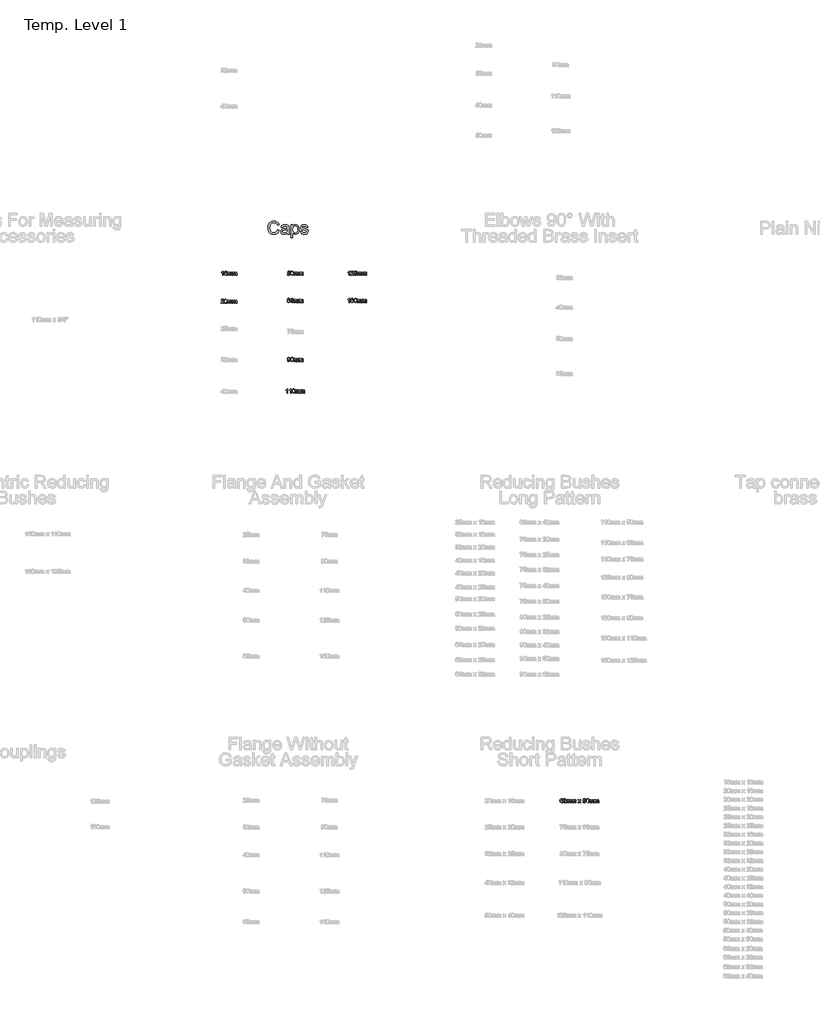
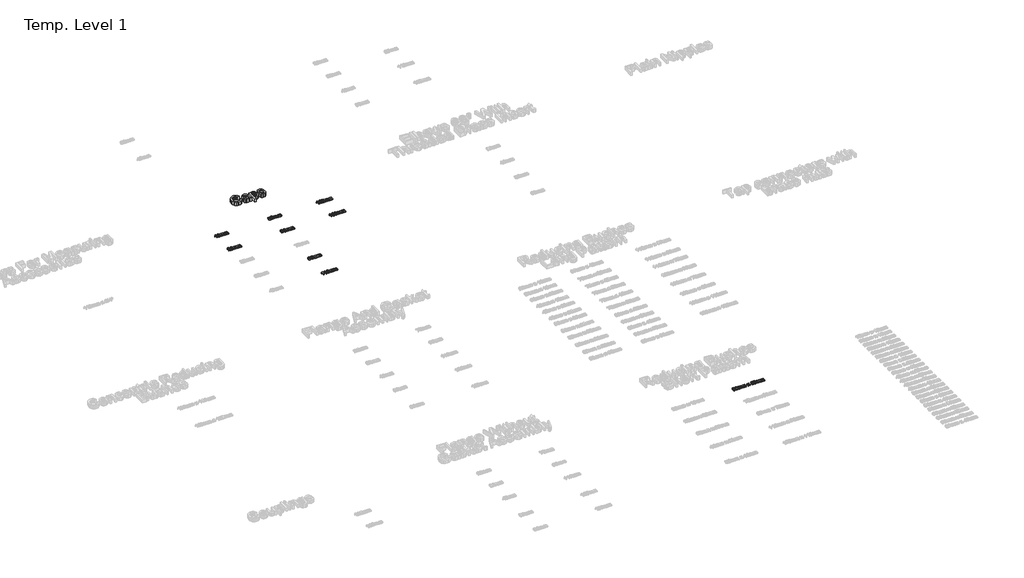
# One storey, part 40 of 62: 10 proxies.
"""IFC4 building model written with IfcOpenShell, lengths in millimetres."""

from ifc_helpers import new_model, si_unit, origin, origin_with_axes, place, context, project, spatial, polyline, outline, extrude, element, save

model = new_model("IFC4")

# Units and contexts
model_context = context("Model", 3, world=origin())
ifc_project = project(units=[si_unit("LENGTHUNIT", "METRE", prefix="MILLI")], contexts=[model_context])

# Site, building, storey
site = spatial("IfcSite", under=ifc_project)
building = spatial("IfcBuilding", under=site)
storey = spatial("IfcBuildingStorey", under=building, Name="Temp. Level 1", Elevation=0.0)

# Proxies
placement = place(None, origin())
element("IfcBuildingElementProxy", 1, Name="150mm Arial", ObjectType="150mm Arial", at=placement, inside=storey, context=model_context, shape_type="SweptSolid", body=[
    extrude(outline(polyline([(21300.3484058, -1017.698517), (21318.8099442, -1022.4581324), (21310.2913144, -1043.9710531), (21296.922925, -1059.6876997), (21279.3628288, -1069.3015819), (21258.2690788, -1072.5062093), (21236.8553168, -1070.0813295), (21219.8496077, -1062.8066901), (21206.8147519, -1050.9346949), (21197.31355, -1034.7177478), (21191.5127688, -1015.652243), (21189.579175, -995.2345747), (21191.7651726, -973.699118), (21198.3231654, -955.1023632), (21208.9106053, -940.034755), (21223.1849442, -929.0867382), (21240.1140308, -922.4205723), (21258.6657135, -920.198517), (21278.9076005, -923.074118), (21295.6428769, -931.7009209), (21308.3487063, -945.5470747), (21316.5022519, -964.0807286), (21298.0407135, -968.479767), (21291.6404731, -955.0167262), (21282.8964827, -945.7814497), (21271.7005692, -940.440404), (21257.9445596, -938.6600555), (21242.0881894, -940.6342141), (21229.0623481, -946.5566901), (21219.1780332, -955.8054882), (21212.7462423, -967.7586132), (21208.0407135, -995.198517), (21213.6116269, -1027.0014016), (21220.7330212, -1038.877904), (21230.9553769, -1047.3199112), (21243.2104851, -1052.363481), (21256.4301365, -1054.0446709), (21271.8402928, -1051.7550074), (21284.6813385, -1044.886017), (21294.3763505, -1033.5098151), (21300.3484058, -1017.698517)])), origin_with_axes(), (0.0, 0.0, 1.0), 50.0),
    extrude(outline(polyline([(21411.1176365, -1056.3523632), (21393.2149923, -1068.8643824), (21373.4373481, -1072.5062093), (21358.009163, -1070.3157045), (21346.6284538, -1063.7441901), (21339.6107255, -1053.7652237), (21337.2714827, -1041.3523632), (21340.8051365, -1026.7489978), (21350.0899923, -1016.1480362), (21363.016675, -1010.0903439), (21378.9902327, -1007.3139016), (21411.0094635, -1000.9677478), (21411.1176365, -996.8571709), (21409.8466029, -988.6179882), (21406.0335019, -983.2273632), (21397.5058577, -979.2249593), (21385.6248481, -977.8908247), (21366.9469635, -981.4425074), (21358.0407135, -994.0446709), (21339.579175, -991.7369786), (21347.5659538, -973.7081324), (21363.6476846, -963.1432286), (21388.0046558, -959.4292862), (21410.3784538, -962.7105362), (21423.016675, -970.9497189), (21428.6777327, -983.479767), (21429.579175, -999.6336132), (21429.579175, -1022.6023632), (21430.516675, -1054.6756805), (21434.1945596, -1070.198517), (21415.7330212, -1070.198517), (21411.1176365, -1056.3523632)]), holes=[polyline([(21411.1176365, -1019.4292862), (21381.3339827, -1025.0903439), (21365.4505692, -1028.0831324), (21358.2570596, -1032.9509209), (21355.7330212, -1040.0542862), (21361.2318192, -1050.042267), (21377.3676365, -1054.0446709), (21396.0455212, -1049.6276036), (21408.0887904, -1038.9364978), (21411.0094635, -1024.6576516), (21411.1176365, -1019.4292862)])]), origin_with_axes(), (0.0, 0.0, 1.0), 50.0),
    extrude(outline(polyline([(21454.9637904, -1111.7369786), (21454.9637904, -961.7369786), (21473.4253288, -961.7369786), (21473.4253288, -979.8379401), (21486.1897519, -964.5314497), (21503.4253288, -959.4292862), (21515.9103048, -961.214142), (21526.8267712, -966.5687093), (21535.7149923, -975.1684689), (21542.1152327, -986.6889016), (21547.2714827, -1015.1384209), (21545.8156534, -1030.9271829), (21541.4481654, -1045.0482766), (21534.3087423, -1056.7850555), (21524.5371077, -1065.4208728), (21513.1563986, -1070.7348752), (21501.1897519, -1072.5062093), (21485.12605, -1067.7646228), (21473.4253288, -1055.7754401), (21473.4253288, -1111.7369786), (21454.9637904, -1111.7369786)]), holes=[polyline([(21473.4253288, -1016.8331324), (21475.4220236, -1033.3836132), (21481.4121077, -1044.9581324), (21490.2507495, -1051.7730362), (21500.7931173, -1054.0446709), (21511.5067591, -1051.6919064), (21520.5707615, -1044.6336132), (21526.7501486, -1032.6354161), (21528.8099442, -1015.4629401), (21526.7997279, -999.0026036), (21520.7690788, -987.2658247), (21511.9439587, -980.2345747), (21501.5503288, -977.8908247), (21491.1161341, -980.3833127), (21481.9529731, -987.8607766), (21475.5572399, -1000.0888415), (21473.4253288, -1016.8331324)])]), origin_with_axes(), (0.0, 0.0, 1.0), 50.0),
    extrude(outline(polyline([(21561.1176365, -1037.8908247), (21579.579175, -1035.5831324), (21582.4908337, -1043.479767), (21588.1248481, -1049.2850555), (21607.704175, -1054.0446709), (21626.5262904, -1049.6816901), (21632.6560981, -1039.4413055), (21626.4902327, -1031.1480362), (21607.4878288, -1025.8836132), (21579.6873481, -1016.8511612), (21567.5539346, -1006.3042862), (21563.4253288, -991.4124593), (21566.7426365, -977.6564497), (21575.7931173, -967.1456324), (21587.5298962, -961.682892), (21603.4133096, -959.4292862), (21625.8772519, -963.0530843), (21640.1560981, -972.8607766), (21646.5022519, -989.4292862), (21628.0407135, -991.7369786), (21621.0996077, -981.5506805), (21604.8556173, -977.8908247), (21587.1873481, -981.3884209), (21581.8868673, -989.5374593), (21584.0863865, -994.9100555), (21590.9734058, -998.9845747), (21606.8748481, -1002.9148632), (21633.9722038, -1011.604767), (21646.5563385, -1021.448517), (21651.1176365, -1037.4941901), (21645.7630692, -1055.1624593), (21630.3123481, -1067.9809689), (21607.4517712, -1072.5062093), (21588.8369875, -1070.3247189), (21575.2522519, -1063.7802478), (21566.1837423, -1052.9449112), (21561.1176365, -1037.8908247)])), origin_with_axes(), (0.0, 0.0, 1.0), 50.0),
])
element("IfcBuildingElementProxy", 2, Name="50mm Arial", ObjectType="50mm Arial", at=placement, inside=storey, context=model_context, shape_type="SweptSolid", body=[
    extrude(outline(polyline([(20674.3130417, -1541.5627719), (20668.1591956, -1541.5627719), (20668.1591956, -1503.1973873), (20662.3298686, -1507.3500315), (20655.8515033, -1510.4570027), (20655.8515033, -1504.639695), (20664.8719359, -1498.8824835), (20670.3466956, -1492.3320027), (20674.3130417, -1492.3320027), (20674.3130417, -1541.5627719)])), origin_with_axes(), (0.0, 0.0, 1.0), 15.0),
    extrude(outline(polyline([(20720.4668879, -1505.4089258), (20714.3130417, -1506.1781565), (20711.9813109, -1501.045945), (20705.8154456, -1498.4858488), (20700.2625609, -1499.9762335), (20696.0618398, -1505.5711854), (20694.3130417, -1516.5387335), (20699.7397244, -1511.6288777), (20706.464484, -1510.0243104), (20716.9212148, -1514.4113296), (20721.2361186, -1525.7454642), (20719.2048686, -1534.2370508), (20713.6159263, -1540.2466661), (20705.5510225, -1542.3320027), (20693.0089552, -1536.8031565), (20689.3716355, -1529.483445), (20688.1591956, -1518.5820027), (20689.5053494, -1506.3253921), (20693.5438109, -1497.9449835), (20699.0576331, -1493.7352479), (20706.2000609, -1492.3320027), (20715.9236186, -1495.8055604), (20720.4668879, -1505.4089258)]), holes=[polyline([(20694.3130417, -1525.6493104), (20695.7373206, -1530.9798392), (20699.5233783, -1534.8500315), (20705.0702533, -1536.1781565), (20712.323859, -1533.4257527), (20715.0822725, -1525.9497911), (20712.3599167, -1518.7923392), (20704.8178494, -1516.1781565), (20697.3719359, -1518.7923392), (20694.3130417, -1525.6493104)])]), origin_with_axes(), (0.0, 0.0, 1.0), 15.0),
    extrude(outline(polyline([(20728.1591956, -1541.5627719), (20728.1591956, -1505.4089258), (20734.3130417, -1505.4089258), (20734.3130417, -1511.358445), (20738.5438109, -1506.4846469), (20744.5654456, -1504.639695), (20750.7313109, -1506.5207046), (20754.120734, -1511.7911373), (20758.9224167, -1506.4275556), (20764.9861186, -1504.639695), (20773.0329936, -1507.6144546), (20775.8515033, -1516.7791181), (20775.8515033, -1541.5627719), (20769.6976571, -1541.5627719), (20769.6976571, -1519.4233488), (20769.1267436, -1514.2851277), (20767.0594359, -1511.7550796), (20763.5438109, -1510.7935411), (20757.4921283, -1513.2574835), (20755.0822725, -1521.1541181), (20755.0822725, -1541.5627719), (20748.9284263, -1541.5627719), (20748.9284263, -1518.7382527), (20747.5041475, -1512.7767142), (20742.8346763, -1510.7935411), (20738.2793879, -1512.1156565), (20735.2505417, -1515.9858488), (20734.3130417, -1523.3295988), (20734.3130417, -1541.5627719), (20728.1591956, -1541.5627719)])), origin_with_axes(), (0.0, 0.0, 1.0), 15.0),
    extrude(outline(polyline([(20785.0822725, -1541.5627719), (20785.0822725, -1505.4089258), (20791.2361186, -1505.4089258), (20791.2361186, -1511.358445), (20795.4668879, -1506.4846469), (20801.4885225, -1504.639695), (20807.6543879, -1506.5207046), (20811.0438109, -1511.7911373), (20815.8454936, -1506.4275556), (20821.9091956, -1504.639695), (20829.9560706, -1507.6144546), (20832.7745802, -1516.7791181), (20832.7745802, -1541.5627719), (20826.620734, -1541.5627719), (20826.620734, -1519.4233488), (20826.0498206, -1514.2851277), (20823.9825129, -1511.7550796), (20820.4668879, -1510.7935411), (20814.4152052, -1513.2574835), (20812.0053494, -1521.1541181), (20812.0053494, -1541.5627719), (20805.8515033, -1541.5627719), (20805.8515033, -1518.7382527), (20804.4272244, -1512.7767142), (20799.7577533, -1510.7935411), (20795.2024648, -1512.1156565), (20792.1736186, -1515.9858488), (20791.2361186, -1523.3295988), (20791.2361186, -1541.5627719), (20785.0822725, -1541.5627719)])), origin_with_axes(), (0.0, 0.0, 1.0), 15.0),
])
element("IfcBuildingElementProxy", 3, Name="50mm Arial", ObjectType="50mm Arial", at=placement, inside=storey, context=model_context, shape_type="SweptSolid", body=[
    extrude(outline(polyline([(20682.7745802, -1856.5446709), (20682.7745802, -1862.698517), (20650.4668879, -1862.698517), (20651.1279456, -1858.4557286), (20654.8659263, -1851.9232766), (20662.5702533, -1844.7898632), (20673.1952533, -1834.5374593), (20675.8515033, -1827.5663055), (20673.3454936, -1821.9232766), (20666.8010225, -1819.6215939), (20659.980109, -1821.8691901), (20657.3899648, -1828.0831324), (20651.2361186, -1827.3139016), (20655.9536667, -1817.0134209), (20666.933234, -1813.4677478), (20677.948859, -1817.4100555), (20682.0053494, -1827.1937093), (20680.9115994, -1833.0290459), (20677.2757821, -1839.0626997), (20668.4596763, -1847.4941901), (20661.3803494, -1853.4136612), (20658.6039071, -1856.5446709), (20682.7745802, -1856.5446709)])), origin_with_axes(), (0.0, 0.0, 1.0), 15.0),
    extrude(outline(polyline([(20688.9284263, -1838.479767), (20690.7373206, -1824.3151036), (20696.1099167, -1816.1480362), (20705.0822725, -1813.4677478), (20712.2697725, -1815.0542862), (20717.2337148, -1819.6276036), (20720.1183302, -1826.9112574), (20721.2361186, -1838.479767), (20719.4452533, -1852.5843343), (20714.0906859, -1860.7694305), (20705.0822725, -1863.4677478), (20693.8322725, -1858.7802478), (20690.1543879, -1850.4539257), (20688.9284263, -1838.479767)]), holes=[polyline([(20695.0822725, -1838.4677478), (20697.9668879, -1853.7501997), (20705.0822725, -1857.3139016), (20712.1976571, -1853.7381805), (20715.0822725, -1838.4677478), (20712.2938109, -1823.3595747), (20705.0101571, -1819.6215939), (20698.0630417, -1822.9148632), (20695.0822725, -1838.4677478)])]), origin_with_axes(), (0.0, 0.0, 1.0), 15.0),
    extrude(outline(polyline([(20728.1591956, -1862.698517), (20728.1591956, -1826.5446709), (20734.3130417, -1826.5446709), (20734.3130417, -1832.4941901), (20738.5438109, -1827.620392), (20744.5654456, -1825.7754401), (20750.7313109, -1827.6564497), (20754.120734, -1832.9268824), (20758.9224167, -1827.5633007), (20764.9861186, -1825.7754401), (20773.0329936, -1828.7501997), (20775.8515033, -1837.9148632), (20775.8515033, -1862.698517), (20769.6976571, -1862.698517), (20769.6976571, -1840.5590939), (20769.1267436, -1835.4208728), (20767.0594359, -1832.8908247), (20763.5438109, -1831.9292862), (20757.4921283, -1834.3932286), (20755.0822725, -1842.2898632), (20755.0822725, -1862.698517), (20748.9284263, -1862.698517), (20748.9284263, -1839.8739978), (20747.5041475, -1833.9124593), (20742.8346763, -1831.9292862), (20738.2793879, -1833.2514016), (20735.2505417, -1837.1215939), (20734.3130417, -1844.4653439), (20734.3130417, -1862.698517), (20728.1591956, -1862.698517)])), origin_with_axes(), (0.0, 0.0, 1.0), 15.0),
    extrude(outline(polyline([(20785.0822725, -1862.698517), (20785.0822725, -1826.5446709), (20791.2361186, -1826.5446709), (20791.2361186, -1832.4941901), (20795.4668879, -1827.620392), (20801.4885225, -1825.7754401), (20807.6543879, -1827.6564497), (20811.0438109, -1832.9268824), (20815.8454936, -1827.5633007), (20821.9091956, -1825.7754401), (20829.9560706, -1828.7501997), (20832.7745802, -1837.9148632), (20832.7745802, -1862.698517), (20826.620734, -1862.698517), (20826.620734, -1840.5590939), (20826.0498206, -1835.4208728), (20823.9825129, -1832.8908247), (20820.4668879, -1831.9292862), (20814.4152052, -1834.3932286), (20812.0053494, -1842.2898632), (20812.0053494, -1862.698517), (20805.8515033, -1862.698517), (20805.8515033, -1839.8739978), (20804.4272244, -1833.9124593), (20799.7577533, -1831.9292862), (20795.2024648, -1833.2514016), (20792.1736186, -1837.1215939), (20791.2361186, -1844.4653439), (20791.2361186, -1862.698517), (20785.0822725, -1862.698517)])), origin_with_axes(), (0.0, 0.0, 1.0), 15.0),
])
element("IfcBuildingElementProxy", 4, Name="50mm Arial", ObjectType="50mm Arial", at=placement, inside=storey, context=model_context, shape_type="SweptSolid", body=[
    extrude(outline(polyline([(21411.2361186, -1528.4858488), (21417.3899648, -1527.7166181), (21420.4909263, -1534.0567623), (21426.9212148, -1536.1781565), (21434.6375609, -1533.2274354), (21437.3899648, -1525.3969065), (21434.8118398, -1518.0892142), (21427.0173686, -1515.4089258), (21421.6147244, -1516.4786373), (21418.1591956, -1519.2550796), (21412.0053494, -1518.4858488), (21417.3899648, -1493.1012335), (21441.2361186, -1493.1012335), (21441.2361186, -1499.2550796), (21422.3659263, -1499.2550796), (21419.7337148, -1512.8127719), (21428.7361186, -1509.2550796), (21439.2589552, -1513.6661373), (21443.5438109, -1525.0122911), (21439.6856379, -1536.4305604), (21434.1447725, -1540.8566421), (21426.8971763, -1542.3320027), (21416.0378013, -1538.5399354), (21411.2361186, -1528.4858488)])), origin_with_axes(), (0.0, 0.0, 1.0), 15.0),
    extrude(outline(polyline([(21448.9284263, -1517.3440219), (21450.7373206, -1503.1793585), (21456.1099167, -1495.0122911), (21465.0822725, -1492.3320027), (21472.2697725, -1493.9185411), (21477.2337148, -1498.4918585), (21480.1183302, -1505.7755123), (21481.2361186, -1517.3440219), (21479.4452533, -1531.4485892), (21474.0906859, -1539.6336854), (21465.0822725, -1542.3320027), (21453.8322725, -1537.6445027), (21450.1543879, -1529.3181806), (21448.9284263, -1517.3440219)]), holes=[polyline([(21455.0822725, -1517.3320027), (21457.9668879, -1532.6144546), (21465.0822725, -1536.1781565), (21472.1976571, -1532.6024354), (21475.0822725, -1517.3320027), (21472.2938109, -1502.2238296), (21465.0101571, -1498.4858488), (21458.0630417, -1501.7791181), (21455.0822725, -1517.3320027)])]), origin_with_axes(), (0.0, 0.0, 1.0), 15.0),
    extrude(outline(polyline([(21488.1591956, -1541.5627719), (21488.1591956, -1505.4089258), (21494.3130417, -1505.4089258), (21494.3130417, -1511.358445), (21498.5438109, -1506.4846469), (21504.5654456, -1504.639695), (21510.7313109, -1506.5207046), (21514.120734, -1511.7911373), (21518.9224167, -1506.4275556), (21524.9861186, -1504.639695), (21533.0329936, -1507.6144546), (21535.8515033, -1516.7791181), (21535.8515033, -1541.5627719), (21529.6976571, -1541.5627719), (21529.6976571, -1519.4233488), (21529.1267436, -1514.2851277), (21527.0594359, -1511.7550796), (21523.5438109, -1510.7935411), (21517.4921283, -1513.2574835), (21515.0822725, -1521.1541181), (21515.0822725, -1541.5627719), (21508.9284263, -1541.5627719), (21508.9284263, -1518.7382527), (21507.5041475, -1512.7767142), (21502.8346763, -1510.7935411), (21498.2793879, -1512.1156565), (21495.2505417, -1515.9858488), (21494.3130417, -1523.3295988), (21494.3130417, -1541.5627719), (21488.1591956, -1541.5627719)])), origin_with_axes(), (0.0, 0.0, 1.0), 15.0),
    extrude(outline(polyline([(21545.0822725, -1541.5627719), (21545.0822725, -1505.4089258), (21551.2361186, -1505.4089258), (21551.2361186, -1511.358445), (21555.4668879, -1506.4846469), (21561.4885225, -1504.639695), (21567.6543879, -1506.5207046), (21571.0438109, -1511.7911373), (21575.8454936, -1506.4275556), (21581.9091956, -1504.639695), (21589.9560706, -1507.6144546), (21592.7745802, -1516.7791181), (21592.7745802, -1541.5627719), (21586.620734, -1541.5627719), (21586.620734, -1519.4233488), (21586.0498206, -1514.2851277), (21583.9825129, -1511.7550796), (21580.4668879, -1510.7935411), (21574.4152052, -1513.2574835), (21572.0053494, -1521.1541181), (21572.0053494, -1541.5627719), (21565.8515033, -1541.5627719), (21565.8515033, -1518.7382527), (21564.4272244, -1512.7767142), (21559.7577533, -1510.7935411), (21555.2024648, -1512.1156565), (21552.1736186, -1515.9858488), (21551.2361186, -1523.3295988), (21551.2361186, -1541.5627719), (21545.0822725, -1541.5627719)])), origin_with_axes(), (0.0, 0.0, 1.0), 15.0),
])
element("IfcBuildingElementProxy", 5, Name="50mm Arial", ObjectType="50mm Arial", at=placement, inside=storey, context=model_context, shape_type="SweptSolid", body=[
    extrude(outline(polyline([(21442.7745802, -1817.9089258), (21436.620734, -1818.6781565), (21434.2890033, -1813.545945), (21428.1231379, -1810.9858488), (21422.5702533, -1812.4762335), (21418.3695321, -1818.0711854), (21416.620734, -1829.0387335), (21422.0474167, -1824.1288777), (21428.7721763, -1822.5243104), (21439.2289071, -1826.9113296), (21443.5438109, -1838.2454642), (21441.5125609, -1846.7370508), (21435.9236186, -1852.7466661), (21427.8587148, -1854.8320027), (21415.3166475, -1849.3031565), (21411.6793278, -1841.983445), (21410.4668879, -1831.0820027), (21411.8130417, -1818.8253921), (21415.8515033, -1810.4449835), (21421.3653254, -1806.2352479), (21428.5077533, -1804.8320027), (21438.2313109, -1808.3055604), (21442.7745802, -1817.9089258)]), holes=[polyline([(21416.620734, -1838.1493104), (21418.0450129, -1843.4798392), (21421.8310706, -1847.3500315), (21427.3779456, -1848.6781565), (21434.6315513, -1845.9257527), (21437.3899648, -1838.4497911), (21434.667609, -1831.2923392), (21427.1255417, -1828.6781565), (21419.6796283, -1831.2923392), (21416.620734, -1838.1493104)])]), origin_with_axes(), (0.0, 0.0, 1.0), 15.0),
    extrude(outline(polyline([(21448.9284263, -1840.9858488), (21455.0822725, -1840.2166181), (21458.4777052, -1846.6949835), (21464.8298686, -1848.6781565), (21472.3058302, -1845.9497911), (21475.0822725, -1839.1949835), (21472.3298686, -1832.8308008), (21465.3346763, -1830.3127719), (21461.0197725, -1830.9858488), (21461.7048686, -1824.8320027), (21469.6736186, -1823.1372911), (21472.7745802, -1817.7045988), (21470.526984, -1812.8908969), (21464.7337148, -1810.9858488), (21458.8683302, -1812.9089258), (21455.8515033, -1818.6781565), (21449.6976571, -1817.9089258), (21454.7337148, -1808.2574835), (21464.5173686, -1804.8320027), (21471.9392436, -1806.5207046), (21477.1315513, -1811.1360892), (21478.9284263, -1817.3440219), (21477.2216956, -1823.0170988), (21472.1736186, -1827.0916181), (21478.8803494, -1831.2983488), (21481.2361186, -1839.3031565), (21476.5245802, -1850.3127719), (21464.6135225, -1854.8320027), (21453.8202533, -1850.9738296), (21448.9284263, -1840.9858488)])), origin_with_axes(), (0.0, 0.0, 1.0), 15.0),
    extrude(outline(polyline([(21488.1591956, -1854.0627719), (21488.1591956, -1817.9089258), (21494.3130417, -1817.9089258), (21494.3130417, -1823.858445), (21498.5438109, -1818.9846469), (21504.5654456, -1817.139695), (21510.7313109, -1819.0207046), (21514.120734, -1824.2911373), (21518.9224167, -1818.9275556), (21524.9861186, -1817.139695), (21533.0329936, -1820.1144546), (21535.8515033, -1829.2791181), (21535.8515033, -1854.0627719), (21529.6976571, -1854.0627719), (21529.6976571, -1831.9233488), (21529.1267436, -1826.7851277), (21527.0594359, -1824.2550796), (21523.5438109, -1823.2935411), (21517.4921283, -1825.7574835), (21515.0822725, -1833.6541181), (21515.0822725, -1854.0627719), (21508.9284263, -1854.0627719), (21508.9284263, -1831.2382527), (21507.5041475, -1825.2767142), (21502.8346763, -1823.2935411), (21498.2793879, -1824.6156565), (21495.2505417, -1828.4858488), (21494.3130417, -1835.8295988), (21494.3130417, -1854.0627719), (21488.1591956, -1854.0627719)])), origin_with_axes(), (0.0, 0.0, 1.0), 15.0),
    extrude(outline(polyline([(21545.0822725, -1854.0627719), (21545.0822725, -1817.9089258), (21551.2361186, -1817.9089258), (21551.2361186, -1823.858445), (21555.4668879, -1818.9846469), (21561.4885225, -1817.139695), (21567.6543879, -1819.0207046), (21571.0438109, -1824.2911373), (21575.8454936, -1818.9275556), (21581.9091956, -1817.139695), (21589.9560706, -1820.1144546), (21592.7745802, -1829.2791181), (21592.7745802, -1854.0627719), (21586.620734, -1854.0627719), (21586.620734, -1831.9233488), (21586.0498206, -1826.7851277), (21583.9825129, -1824.2550796), (21580.4668879, -1823.2935411), (21574.4152052, -1825.7574835), (21572.0053494, -1833.6541181), (21572.0053494, -1854.0627719), (21565.8515033, -1854.0627719), (21565.8515033, -1831.2382527), (21564.4272244, -1825.2767142), (21559.7577533, -1823.2935411), (21555.2024648, -1824.6156565), (21552.1736186, -1828.4858488), (21551.2361186, -1835.8295988), (21551.2361186, -1854.0627719), (21545.0822725, -1854.0627719)])), origin_with_axes(), (0.0, 0.0, 1.0), 15.0),
])
element("IfcBuildingElementProxy", 6, Name="50mm Arial", ObjectType="50mm Arial", at=placement, inside=storey, context=model_context, shape_type="SweptSolid", body=[
    extrude(outline(polyline([(21412.0053494, -2517.8908247), (21418.1591956, -2517.1215939), (21420.9236186, -2522.9929882), (21426.1640033, -2524.8139016), (21431.1459744, -2523.6420266), (21434.5233783, -2520.511017), (21436.5365994, -2515.1624593), (21437.4260225, -2508.0230362), (21432.4680898, -2511.4845747), (21425.7192917, -2513.2754401), (21415.4368398, -2508.9004401), (21411.2361186, -2497.3739978), (21415.6411667, -2485.4749593), (21426.6808302, -2480.9677478), (21435.448859, -2483.5398632), (21441.4825129, -2490.8715939), (21443.5438109, -2504.6456324), (21441.4885225, -2519.5915459), (21435.3767436, -2528.0590939), (21425.8755417, -2530.9677478), (21416.4164071, -2527.5362574), (21412.0053494, -2517.8908247)]), holes=[polyline([(21437.3899648, -2497.229767), (21434.7337148, -2489.8499593), (21427.6784263, -2487.1215939), (21420.2745802, -2490.0602959), (21417.3899648, -2497.6744786), (21420.1183302, -2504.495392), (21427.5101571, -2507.1215939), (21434.6075129, -2504.495392), (21437.3899648, -2497.229767)])]), origin_with_axes(), (0.0, 0.0, 1.0), 15.0),
    extrude(outline(polyline([(21448.9284263, -2505.979767), (21450.7373206, -2491.8151036), (21456.1099167, -2483.6480362), (21465.0822725, -2480.9677478), (21472.2697725, -2482.5542862), (21477.2337148, -2487.1276036), (21480.1183302, -2494.4112574), (21481.2361186, -2505.979767), (21479.4452533, -2520.0843343), (21474.0906859, -2528.2694305), (21465.0822725, -2530.9677478), (21453.8322725, -2526.2802478), (21450.1543879, -2517.9539257), (21448.9284263, -2505.979767)]), holes=[polyline([(21455.0822725, -2505.9677478), (21457.9668879, -2521.2501997), (21465.0822725, -2524.8139016), (21472.1976571, -2521.2381805), (21475.0822725, -2505.9677478), (21472.2938109, -2490.8595747), (21465.0101571, -2487.1215939), (21458.0630417, -2490.4148632), (21455.0822725, -2505.9677478)])]), origin_with_axes(), (0.0, 0.0, 1.0), 15.0),
    extrude(outline(polyline([(21488.1591956, -2530.198517), (21488.1591956, -2494.0446709), (21494.3130417, -2494.0446709), (21494.3130417, -2499.9941901), (21498.5438109, -2495.120392), (21504.5654456, -2493.2754401), (21510.7313109, -2495.1564497), (21514.120734, -2500.4268824), (21518.9224167, -2495.0633007), (21524.9861186, -2493.2754401), (21533.0329936, -2496.2501997), (21535.8515033, -2505.4148632), (21535.8515033, -2530.198517), (21529.6976571, -2530.198517), (21529.6976571, -2508.0590939), (21529.1267436, -2502.9208728), (21527.0594359, -2500.3908247), (21523.5438109, -2499.4292862), (21517.4921283, -2501.8932286), (21515.0822725, -2509.7898632), (21515.0822725, -2530.198517), (21508.9284263, -2530.198517), (21508.9284263, -2507.3739978), (21507.5041475, -2501.4124593), (21502.8346763, -2499.4292862), (21498.2793879, -2500.7514016), (21495.2505417, -2504.6215939), (21494.3130417, -2511.9653439), (21494.3130417, -2530.198517), (21488.1591956, -2530.198517)])), origin_with_axes(), (0.0, 0.0, 1.0), 15.0),
    extrude(outline(polyline([(21545.0822725, -2530.198517), (21545.0822725, -2494.0446709), (21551.2361186, -2494.0446709), (21551.2361186, -2499.9941901), (21555.4668879, -2495.120392), (21561.4885225, -2493.2754401), (21567.6543879, -2495.1564497), (21571.0438109, -2500.4268824), (21575.8454936, -2495.0633007), (21581.9091956, -2493.2754401), (21589.9560706, -2496.2501997), (21592.7745802, -2505.4148632), (21592.7745802, -2530.198517), (21586.620734, -2530.198517), (21586.620734, -2508.0590939), (21586.0498206, -2502.9208728), (21583.9825129, -2500.3908247), (21580.4668879, -2499.4292862), (21574.4152052, -2501.8932286), (21572.0053494, -2509.7898632), (21572.0053494, -2530.198517), (21565.8515033, -2530.198517), (21565.8515033, -2507.3739978), (21564.4272244, -2501.4124593), (21559.7577533, -2499.4292862), (21555.2024648, -2500.7514016), (21552.1736186, -2504.6215939), (21551.2361186, -2511.9653439), (21551.2361186, -2530.198517), (21545.0822725, -2530.198517)])), origin_with_axes(), (0.0, 0.0, 1.0), 15.0),
])
element("IfcBuildingElementProxy", 7, Name="50mm Arial", ObjectType="50mm Arial", at=placement, inside=storey, context=model_context, shape_type="SweptSolid", body=[
    extrude(outline(polyline([(21415.4668879, -2890.198517), (21409.3130417, -2890.198517), (21409.3130417, -2851.8331324), (21403.4837148, -2855.9857766), (21397.0053494, -2859.0927478), (21397.0053494, -2853.2754401), (21406.0257821, -2847.5182286), (21411.5005417, -2840.9677478), (21415.4668879, -2840.9677478), (21415.4668879, -2890.198517)])), origin_with_axes(), (0.0, 0.0, 1.0), 15.0),
    extrude(outline(polyline([(21453.1591956, -2890.198517), (21447.0053494, -2890.198517), (21447.0053494, -2851.8331324), (21441.1760225, -2855.9857766), (21434.6976571, -2859.0927478), (21434.6976571, -2853.2754401), (21443.7180898, -2847.5182286), (21449.1928494, -2840.9677478), (21453.1591956, -2840.9677478), (21453.1591956, -2890.198517)])), origin_with_axes(), (0.0, 0.0, 1.0), 15.0),
    extrude(outline(polyline([(21467.7745802, -2865.979767), (21469.5834744, -2851.8151036), (21474.9560706, -2843.6480362), (21483.9284263, -2840.9677478), (21491.1159263, -2842.5542862), (21496.0798686, -2847.1276036), (21498.964484, -2854.4112574), (21500.0822725, -2865.979767), (21498.2914071, -2880.0843343), (21492.9368398, -2888.2694305), (21483.9284263, -2890.9677478), (21472.6784263, -2886.2802478), (21469.0005417, -2877.9539257), (21467.7745802, -2865.979767)]), holes=[polyline([(21473.9284263, -2865.9677478), (21476.8130417, -2881.2501997), (21483.9284263, -2884.8139016), (21491.0438109, -2881.2381805), (21493.9284263, -2865.9677478), (21491.1399648, -2850.8595747), (21483.8563109, -2847.1215939), (21476.9091956, -2850.4148632), (21473.9284263, -2865.9677478)])]), origin_with_axes(), (0.0, 0.0, 1.0), 15.0),
    extrude(outline(polyline([(21507.0053494, -2890.198517), (21507.0053494, -2854.0446709), (21513.1591956, -2854.0446709), (21513.1591956, -2859.9941901), (21517.3899648, -2855.120392), (21523.4115994, -2853.2754401), (21529.5774648, -2855.1564497), (21532.9668879, -2860.4268824), (21537.7685706, -2855.0633007), (21543.8322725, -2853.2754401), (21551.8791475, -2856.2501997), (21554.6976571, -2865.4148632), (21554.6976571, -2890.198517), (21548.5438109, -2890.198517), (21548.5438109, -2868.0590939), (21547.9728975, -2862.9208728), (21545.9055898, -2860.3908247), (21542.3899648, -2859.4292862), (21536.3382821, -2861.8932286), (21533.9284263, -2869.7898632), (21533.9284263, -2890.198517), (21527.7745802, -2890.198517), (21527.7745802, -2867.3739978), (21526.3503013, -2861.4124593), (21521.6808302, -2859.4292862), (21517.1255417, -2860.7514016), (21514.0966956, -2864.6215939), (21513.1591956, -2871.9653439), (21513.1591956, -2890.198517), (21507.0053494, -2890.198517)])), origin_with_axes(), (0.0, 0.0, 1.0), 15.0),
    extrude(outline(polyline([(21563.9284263, -2890.198517), (21563.9284263, -2854.0446709), (21570.0822725, -2854.0446709), (21570.0822725, -2859.9941901), (21574.3130417, -2855.120392), (21580.3346763, -2853.2754401), (21586.5005417, -2855.1564497), (21589.8899648, -2860.4268824), (21594.6916475, -2855.0633007), (21600.7553494, -2853.2754401), (21608.8022244, -2856.2501997), (21611.620734, -2865.4148632), (21611.620734, -2890.198517), (21605.4668879, -2890.198517), (21605.4668879, -2868.0590939), (21604.8959744, -2862.9208728), (21602.8286667, -2860.3908247), (21599.3130417, -2859.4292862), (21593.261359, -2861.8932286), (21590.8515033, -2869.7898632), (21590.8515033, -2890.198517), (21584.6976571, -2890.198517), (21584.6976571, -2867.3739978), (21583.2733783, -2861.4124593), (21578.6039071, -2859.4292862), (21574.0486186, -2860.7514016), (21571.0197725, -2864.6215939), (21570.0822725, -2871.9653439), (21570.0822725, -2890.198517), (21563.9284263, -2890.198517)])), origin_with_axes(), (0.0, 0.0, 1.0), 15.0),
])
element("IfcBuildingElementProxy", 8, Name="50mm Arial", ObjectType="50mm Arial", at=placement, inside=storey, context=model_context, shape_type="SweptSolid", body=[
    extrude(outline(polyline([(22124.4668879, -1541.5627719), (22118.3130417, -1541.5627719), (22118.3130417, -1503.1973873), (22112.4837148, -1507.3500315), (22106.0053494, -1510.4570027), (22106.0053494, -1504.639695), (22115.0257821, -1498.8824835), (22120.5005417, -1492.3320027), (22124.4668879, -1492.3320027), (22124.4668879, -1541.5627719)])), origin_with_axes(), (0.0, 0.0, 1.0), 15.0),
    extrude(outline(polyline([(22170.620734, -1535.4089258), (22170.620734, -1541.5627719), (22138.3130417, -1541.5627719), (22138.9740994, -1537.3199835), (22142.7120802, -1530.7875315), (22150.4164071, -1523.6541181), (22161.0414071, -1513.4017142), (22163.6976571, -1506.4305604), (22161.1916475, -1500.7875315), (22154.6471763, -1498.4858488), (22147.8262629, -1500.733445), (22145.2361186, -1506.9473873), (22139.0822725, -1506.1781565), (22143.7998206, -1495.8776758), (22154.7793879, -1492.3320027), (22165.7950129, -1496.2743104), (22169.8515033, -1506.0579642), (22168.7577533, -1511.8933008), (22165.1219359, -1517.9269546), (22156.3058302, -1526.358445), (22149.2265033, -1532.2779161), (22146.4500609, -1535.4089258), (22170.620734, -1535.4089258)])), origin_with_axes(), (0.0, 0.0, 1.0), 15.0),
    extrude(outline(polyline([(22176.7745802, -1528.4858488), (22182.9284263, -1527.7166181), (22186.0293879, -1534.0567623), (22192.4596763, -1536.1781565), (22200.1760225, -1533.2274354), (22202.9284263, -1525.3969065), (22200.3503013, -1518.0892142), (22192.5558302, -1515.4089258), (22187.1531859, -1516.4786373), (22183.6976571, -1519.2550796), (22177.5438109, -1518.4858488), (22182.9284263, -1493.1012335), (22206.7745802, -1493.1012335), (22206.7745802, -1499.2550796), (22187.9043879, -1499.2550796), (22185.2721763, -1512.8127719), (22194.2745802, -1509.2550796), (22204.7974167, -1513.6661373), (22209.0822725, -1525.0122911), (22205.2240994, -1536.4305604), (22199.683234, -1540.8566421), (22192.4356379, -1542.3320027), (22181.5762629, -1538.5399354), (22176.7745802, -1528.4858488)])), origin_with_axes(), (0.0, 0.0, 1.0), 15.0),
    extrude(outline(polyline([(22216.0053494, -1541.5627719), (22216.0053494, -1505.4089258), (22222.1591956, -1505.4089258), (22222.1591956, -1511.358445), (22226.3899648, -1506.4846469), (22232.4115994, -1504.639695), (22238.5774648, -1506.5207046), (22241.9668879, -1511.7911373), (22246.7685706, -1506.4275556), (22252.8322725, -1504.639695), (22260.8791475, -1507.6144546), (22263.6976571, -1516.7791181), (22263.6976571, -1541.5627719), (22257.5438109, -1541.5627719), (22257.5438109, -1519.4233488), (22256.9728975, -1514.2851277), (22254.9055898, -1511.7550796), (22251.3899648, -1510.7935411), (22245.3382821, -1513.2574835), (22242.9284263, -1521.1541181), (22242.9284263, -1541.5627719), (22236.7745802, -1541.5627719), (22236.7745802, -1518.7382527), (22235.3503013, -1512.7767142), (22230.6808302, -1510.7935411), (22226.1255417, -1512.1156565), (22223.0966956, -1515.9858488), (22222.1591956, -1523.3295988), (22222.1591956, -1541.5627719), (22216.0053494, -1541.5627719)])), origin_with_axes(), (0.0, 0.0, 1.0), 15.0),
    extrude(outline(polyline([(22272.9284263, -1541.5627719), (22272.9284263, -1505.4089258), (22279.0822725, -1505.4089258), (22279.0822725, -1511.358445), (22283.3130417, -1506.4846469), (22289.3346763, -1504.639695), (22295.5005417, -1506.5207046), (22298.8899648, -1511.7911373), (22303.6916475, -1506.4275556), (22309.7553494, -1504.639695), (22317.8022244, -1507.6144546), (22320.620734, -1516.7791181), (22320.620734, -1541.5627719), (22314.4668879, -1541.5627719), (22314.4668879, -1519.4233488), (22313.8959744, -1514.2851277), (22311.8286667, -1511.7550796), (22308.3130417, -1510.7935411), (22302.261359, -1513.2574835), (22299.8515033, -1521.1541181), (22299.8515033, -1541.5627719), (22293.6976571, -1541.5627719), (22293.6976571, -1518.7382527), (22292.2733783, -1512.7767142), (22287.6039071, -1510.7935411), (22283.0486186, -1512.1156565), (22280.0197725, -1515.9858488), (22279.0822725, -1523.3295988), (22279.0822725, -1541.5627719), (22272.9284263, -1541.5627719)])), origin_with_axes(), (0.0, 0.0, 1.0), 15.0),
])
element("IfcBuildingElementProxy", 9, Name="50mm Arial", ObjectType="50mm Arial", at=placement, inside=storey, context=model_context, shape_type="SweptSolid", body=[
    extrude(outline(polyline([(22124.4668879, -1854.0627719), (22118.3130417, -1854.0627719), (22118.3130417, -1815.6973873), (22112.4837148, -1819.8500315), (22106.0053494, -1822.9570027), (22106.0053494, -1817.139695), (22115.0257821, -1811.3824835), (22120.5005417, -1804.8320027), (22124.4668879, -1804.8320027), (22124.4668879, -1854.0627719)])), origin_with_axes(), (0.0, 0.0, 1.0), 15.0),
    extrude(outline(polyline([(22170.620734, -1817.9089258), (22164.4668879, -1818.6781565), (22162.1351571, -1813.545945), (22155.9692917, -1810.9858488), (22150.4164071, -1812.4762335), (22146.2156859, -1818.0711854), (22144.4668879, -1829.0387335), (22149.8935706, -1824.1288777), (22156.6183302, -1822.5243104), (22167.0750609, -1826.9113296), (22171.3899648, -1838.2454642), (22169.3587148, -1846.7370508), (22163.7697725, -1852.7466661), (22155.7048686, -1854.8320027), (22143.1628013, -1849.3031565), (22139.5254816, -1841.983445), (22138.3130417, -1831.0820027), (22139.6591956, -1818.8253921), (22143.6976571, -1810.4449835), (22149.2114792, -1806.2352479), (22156.3539071, -1804.8320027), (22166.0774648, -1808.3055604), (22170.620734, -1817.9089258)]), holes=[polyline([(22144.4668879, -1838.1493104), (22145.8911667, -1843.4798392), (22149.6772244, -1847.3500315), (22155.2240994, -1848.6781565), (22162.4777052, -1845.9257527), (22165.2361186, -1838.4497911), (22162.5137629, -1831.2923392), (22154.9716956, -1828.6781565), (22147.5257821, -1831.2923392), (22144.4668879, -1838.1493104)])]), origin_with_axes(), (0.0, 0.0, 1.0), 15.0),
    extrude(outline(polyline([(22176.7745802, -1829.8440219), (22178.5834744, -1815.6793585), (22183.9560706, -1807.5122911), (22192.9284263, -1804.8320027), (22200.1159263, -1806.4185411), (22205.0798686, -1810.9918585), (22207.964484, -1818.2755123), (22209.0822725, -1829.8440219), (22207.2914071, -1843.9485892), (22201.9368398, -1852.1336854), (22192.9284263, -1854.8320027), (22181.6784263, -1850.1445027), (22178.0005417, -1841.8181806), (22176.7745802, -1829.8440219)]), holes=[polyline([(22182.9284263, -1829.8320027), (22185.8130417, -1845.1144546), (22192.9284263, -1848.6781565), (22200.0438109, -1845.1024354), (22202.9284263, -1829.8320027), (22200.1399648, -1814.7238296), (22192.8563109, -1810.9858488), (22185.9091956, -1814.2791181), (22182.9284263, -1829.8320027)])]), origin_with_axes(), (0.0, 0.0, 1.0), 15.0),
    extrude(outline(polyline([(22216.0053494, -1854.0627719), (22216.0053494, -1817.9089258), (22222.1591956, -1817.9089258), (22222.1591956, -1823.858445), (22226.3899648, -1818.9846469), (22232.4115994, -1817.139695), (22238.5774648, -1819.0207046), (22241.9668879, -1824.2911373), (22246.7685706, -1818.9275556), (22252.8322725, -1817.139695), (22260.8791475, -1820.1144546), (22263.6976571, -1829.2791181), (22263.6976571, -1854.0627719), (22257.5438109, -1854.0627719), (22257.5438109, -1831.9233488), (22256.9728975, -1826.7851277), (22254.9055898, -1824.2550796), (22251.3899648, -1823.2935411), (22245.3382821, -1825.7574835), (22242.9284263, -1833.6541181), (22242.9284263, -1854.0627719), (22236.7745802, -1854.0627719), (22236.7745802, -1831.2382527), (22235.3503013, -1825.2767142), (22230.6808302, -1823.2935411), (22226.1255417, -1824.6156565), (22223.0966956, -1828.4858488), (22222.1591956, -1835.8295988), (22222.1591956, -1854.0627719), (22216.0053494, -1854.0627719)])), origin_with_axes(), (0.0, 0.0, 1.0), 15.0),
    extrude(outline(polyline([(22272.9284263, -1854.0627719), (22272.9284263, -1817.9089258), (22279.0822725, -1817.9089258), (22279.0822725, -1823.858445), (22283.3130417, -1818.9846469), (22289.3346763, -1817.139695), (22295.5005417, -1819.0207046), (22298.8899648, -1824.2911373), (22303.6916475, -1818.9275556), (22309.7553494, -1817.139695), (22317.8022244, -1820.1144546), (22320.620734, -1829.2791181), (22320.620734, -1854.0627719), (22314.4668879, -1854.0627719), (22314.4668879, -1831.9233488), (22313.8959744, -1826.7851277), (22311.8286667, -1824.2550796), (22308.3130417, -1823.2935411), (22302.261359, -1825.7574835), (22299.8515033, -1833.6541181), (22299.8515033, -1854.0627719), (22293.6976571, -1854.0627719), (22293.6976571, -1831.2382527), (22292.2733783, -1825.2767142), (22287.6039071, -1823.2935411), (22283.0486186, -1824.6156565), (22280.0197725, -1828.4858488), (22279.0822725, -1835.8295988), (22279.0822725, -1854.0627719), (22272.9284263, -1854.0627719)])), origin_with_axes(), (0.0, 0.0, 1.0), 15.0),
])
element("IfcBuildingElementProxy", 10, Name="50mm Arial", ObjectType="50mm Arial", at=placement, inside=storey, context=model_context, shape_type="SweptSolid", body=[
    extrude(outline(polyline([(24569.5900242, -7549.121299), (24563.436178, -7549.8905297), (24561.1044472, -7544.7583182), (24554.9385818, -7542.198222), (24549.3856972, -7543.6886066), (24545.1849761, -7549.2835586), (24543.436178, -7560.2511066), (24548.8628607, -7555.3412509), (24555.5876203, -7553.7366836), (24566.0443511, -7558.1237028), (24570.3592549, -7569.4578374), (24568.3280049, -7577.949424), (24562.7390626, -7583.9590393), (24554.6741588, -7586.0443759), (24542.1320915, -7580.5155297), (24538.4947717, -7573.1958182), (24537.2823318, -7562.2943759), (24538.6284857, -7550.0377653), (24542.6669472, -7541.6573566), (24548.1807693, -7537.4476211), (24555.3231972, -7536.0443759), (24565.0467549, -7539.5179336), (24569.5900242, -7549.121299)]), holes=[polyline([(24543.436178, -7569.3616836), (24544.8604568, -7574.6922124), (24548.6465145, -7578.5624047), (24554.1933895, -7579.8905297), (24561.4469953, -7577.1381259), (24564.2054088, -7569.6621643), (24561.483053, -7562.5047124), (24553.9409857, -7559.8905297), (24546.4950722, -7562.5047124), (24543.436178, -7569.3616836)])]), origin_with_axes(), (0.0, 0.0, 1.0), 15.0),
    extrude(outline(polyline([(24575.7438703, -7572.198222), (24581.8977165, -7571.4289913), (24585.2931492, -7577.9073566), (24591.6453126, -7579.8905297), (24599.1212742, -7577.1621643), (24601.8977165, -7570.4073566), (24599.1453126, -7564.043174), (24592.1501203, -7561.5251451), (24587.8352165, -7562.198222), (24588.5203126, -7556.0443759), (24596.4890626, -7554.3496643), (24599.5900242, -7548.916972), (24597.342428, -7544.1032701), (24591.5491588, -7542.198222), (24585.6837742, -7544.121299), (24582.6669472, -7549.8905297), (24576.5131011, -7549.121299), (24581.5491588, -7539.4698566), (24591.3328126, -7536.0443759), (24598.7546876, -7537.7330778), (24603.9469953, -7542.3484624), (24605.7438703, -7548.5563951), (24604.0371395, -7554.229472), (24598.9890626, -7558.3039913), (24605.6957934, -7562.510722), (24608.0515626, -7570.5155297), (24603.3400242, -7581.5251451), (24591.4289665, -7586.0443759), (24580.6356972, -7582.1862028), (24575.7438703, -7572.198222)])), origin_with_axes(), (0.0, 0.0, 1.0), 15.0),
    extrude(outline(polyline([(24614.9746395, -7585.2751451), (24614.9746395, -7549.121299), (24621.1284857, -7549.121299), (24621.1284857, -7555.0708182), (24625.3592549, -7550.1970201), (24631.3808895, -7548.3520682), (24637.5467549, -7550.2330778), (24640.936178, -7555.5035105), (24645.7378607, -7550.1399288), (24651.8015626, -7548.3520682), (24659.8484376, -7551.3268278), (24662.6669472, -7560.4914913), (24662.6669472, -7585.2751451), (24656.5131011, -7585.2751451), (24656.5131011, -7563.135722), (24655.9421876, -7557.9975009), (24653.8748799, -7555.4674528), (24650.3592549, -7554.5059143), (24644.3075722, -7556.9698566), (24641.8977165, -7564.8664913), (24641.8977165, -7585.2751451), (24635.7438703, -7585.2751451), (24635.7438703, -7562.4506259), (24634.3195915, -7556.4890874), (24629.6501203, -7554.5059143), (24625.0948318, -7555.8280297), (24622.0659857, -7559.698222), (24621.1284857, -7567.041972), (24621.1284857, -7585.2751451), (24614.9746395, -7585.2751451)])), origin_with_axes(), (0.0, 0.0, 1.0), 15.0),
    extrude(outline(polyline([(24671.8977165, -7585.2751451), (24671.8977165, -7549.121299), (24678.0515626, -7549.121299), (24678.0515626, -7555.0708182), (24682.2823318, -7550.1970201), (24688.3039665, -7548.3520682), (24694.4698318, -7550.2330778), (24697.8592549, -7555.5035105), (24702.6609376, -7550.1399288), (24708.7246395, -7548.3520682), (24716.7715145, -7551.3268278), (24719.5900242, -7560.4914913), (24719.5900242, -7585.2751451), (24713.436178, -7585.2751451), (24713.436178, -7563.135722), (24712.8652645, -7557.9975009), (24710.7979568, -7555.4674528), (24707.2823318, -7554.5059143), (24701.2306492, -7556.9698566), (24698.8207934, -7564.8664913), (24698.8207934, -7585.2751451), (24692.6669472, -7585.2751451), (24692.6669472, -7562.4506259), (24691.2426684, -7556.4890874), (24686.5731972, -7554.5059143), (24682.0179088, -7555.8280297), (24678.9890626, -7559.698222), (24678.0515626, -7567.041972), (24678.0515626, -7585.2751451), (24671.8977165, -7585.2751451)])), origin_with_axes(), (0.0, 0.0, 1.0), 15.0),
    extrude(outline(polyline([(24744.2054088, -7585.2751451), (24757.3544472, -7567.1020682), (24744.9746395, -7549.121299), (24752.3784857, -7549.121299), (24758.3520434, -7557.7751451), (24761.1405049, -7561.8616836), (24763.5563703, -7558.5203374), (24770.3592549, -7549.121299), (24777.7631011, -7549.121299), (24764.7582934, -7567.1020682), (24777.2823318, -7585.2751451), (24769.8784857, -7585.2751451), (24762.342428, -7574.3496643), (24760.9602165, -7572.354472), (24751.6092549, -7585.2751451), (24744.2054088, -7585.2751451)])), origin_with_axes(), (0.0, 0.0, 1.0), 15.0),
    extrude(outline(polyline([(24800.3592549, -7572.198222), (24806.5131011, -7571.4289913), (24809.6140626, -7577.7691355), (24816.0443511, -7579.8905297), (24823.7606972, -7576.9398086), (24826.5131011, -7569.1092797), (24823.9349761, -7561.8015874), (24816.1405049, -7559.121299), (24810.7378607, -7560.1910105), (24807.2823318, -7562.9674528), (24801.1284857, -7562.198222), (24806.5131011, -7536.8136066), (24830.3592549, -7536.8136066), (24830.3592549, -7542.9674528), (24811.4890626, -7542.9674528), (24808.8568511, -7556.5251451), (24817.8592549, -7552.9674528), (24828.3820915, -7557.3785105), (24832.6669472, -7568.7246643), (24828.8087742, -7580.1429336), (24823.2679088, -7584.5690153), (24816.0203126, -7586.0443759), (24805.1609376, -7582.2523086), (24800.3592549, -7572.198222)])), origin_with_axes(), (0.0, 0.0, 1.0), 15.0),
    extrude(outline(polyline([(24838.0515626, -7561.0563951), (24839.8604568, -7546.8917316), (24845.233053, -7538.7246643), (24854.2054088, -7536.0443759), (24861.3929088, -7537.6309143), (24866.3568511, -7542.2042316), (24869.2414665, -7549.4878855), (24870.3592549, -7561.0563951), (24868.5683895, -7575.1609624), (24863.2138222, -7583.3460586), (24854.2054088, -7586.0443759), (24842.9554088, -7581.3568759), (24839.2775242, -7573.0305538), (24838.0515626, -7561.0563951)]), holes=[polyline([(24844.2054088, -7561.0443759), (24847.0900242, -7576.3268278), (24854.2054088, -7579.8905297), (24861.3207934, -7576.3148086), (24864.2054088, -7561.0443759), (24861.4169472, -7545.9362028), (24854.1332934, -7542.198222), (24847.186178, -7545.4914913), (24844.2054088, -7561.0443759)])]), origin_with_axes(), (0.0, 0.0, 1.0), 15.0),
    extrude(outline(polyline([(24877.2823318, -7585.2751451), (24877.2823318, -7549.121299), (24883.436178, -7549.121299), (24883.436178, -7555.0708182), (24887.6669472, -7550.1970201), (24893.6885818, -7548.3520682), (24899.8544472, -7550.2330778), (24903.2438703, -7555.5035105), (24908.045553, -7550.1399288), (24914.1092549, -7548.3520682), (24922.1561299, -7551.3268278), (24924.9746395, -7560.4914913), (24924.9746395, -7585.2751451), (24918.8207934, -7585.2751451), (24918.8207934, -7563.135722), (24918.2498799, -7557.9975009), (24916.1825722, -7555.4674528), (24912.6669472, -7554.5059143), (24906.6152645, -7556.9698566), (24904.2054088, -7564.8664913), (24904.2054088, -7585.2751451), (24898.0515626, -7585.2751451), (24898.0515626, -7562.4506259), (24896.6272838, -7556.4890874), (24891.9578126, -7554.5059143), (24887.4025242, -7555.8280297), (24884.373678, -7559.698222), (24883.436178, -7567.041972), (24883.436178, -7585.2751451), (24877.2823318, -7585.2751451)])), origin_with_axes(), (0.0, 0.0, 1.0), 15.0),
    extrude(outline(polyline([(24934.2054088, -7585.2751451), (24934.2054088, -7549.121299), (24940.3592549, -7549.121299), (24940.3592549, -7555.0708182), (24944.5900242, -7550.1970201), (24950.6116588, -7548.3520682), (24956.7775242, -7550.2330778), (24960.1669472, -7555.5035105), (24964.9686299, -7550.1399288), (24971.0323318, -7548.3520682), (24979.0792068, -7551.3268278), (24981.8977165, -7560.4914913), (24981.8977165, -7585.2751451), (24975.7438703, -7585.2751451), (24975.7438703, -7563.135722), (24975.1729568, -7557.9975009), (24973.1056492, -7555.4674528), (24969.5900242, -7554.5059143), (24963.5383415, -7556.9698566), (24961.1284857, -7564.8664913), (24961.1284857, -7585.2751451), (24954.9746395, -7585.2751451), (24954.9746395, -7562.4506259), (24953.5503607, -7556.4890874), (24948.8808895, -7554.5059143), (24944.3256011, -7555.8280297), (24941.2967549, -7559.698222), (24940.3592549, -7567.041972), (24940.3592549, -7585.2751451), (24934.2054088, -7585.2751451)])), origin_with_axes(), (0.0, 0.0, 1.0), 15.0),
])

save(model, "model.ifc")
